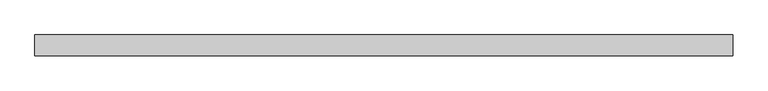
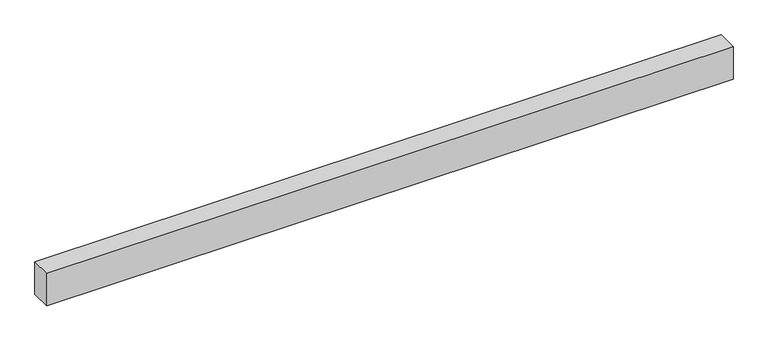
"""IFC4 building model written with IfcOpenShell, lengths in millimetres: proxy geometry, Кабель-каналы_магистральные_цвет-белый : Кабель-канал магистральный 100х60 белый."""

from ifc_helpers import new_model, si_unit, origin, origin_with_axes, place, context, project, spatial, polyline, outline, extrude, source, transform, mapped, element, save


def generic_models_3b610377(model_context):
    return source(origin(), model_context, "Body", "SweptSolid", [
        extrude(outline(polyline([(2000.0, -60.0), (0.0, -60.0), (0.0, 0.0), (2000.0, 0.0), (2000.0, -60.0)])), origin_with_axes(), (0.0, 0.0, 1.0), 100.0),
    ])


if __name__ == "__main__":
    model = new_model("IFC4")
    model_context = context("Model", 3, world=origin())
    ifc_project = project(units=[si_unit("LENGTHUNIT", "METRE", prefix="MILLI")], contexts=[model_context])
    site = spatial("IfcSite", under=ifc_project)
    building = spatial("IfcBuilding", under=site)
    placement = place(None, origin())
    generic_models_shape = generic_models_3b610377(model_context)
    element("IfcBuildingElementProxy", 1, Name="Кабель-каналы_магистральные_цвет-белый : Кабель-канал магистральный 100х60 белый", ObjectType="Кабель-каналы_магистральные_цвет-белый : Кабель-канал магистральный 100х60 белый", at=placement, inside=building, context=model_context, shape_type="MappedRepresentation", body=[
        mapped(generic_models_shape, transform((0.0, 0.0, 0.0), x_axis=(1.0, 0.0, 0.0), y_axis=(0.0, 1.0, 0.0), z_axis=(0.0, 0.0, 1.0))),
    ])
    save(model, "model.ifc")
